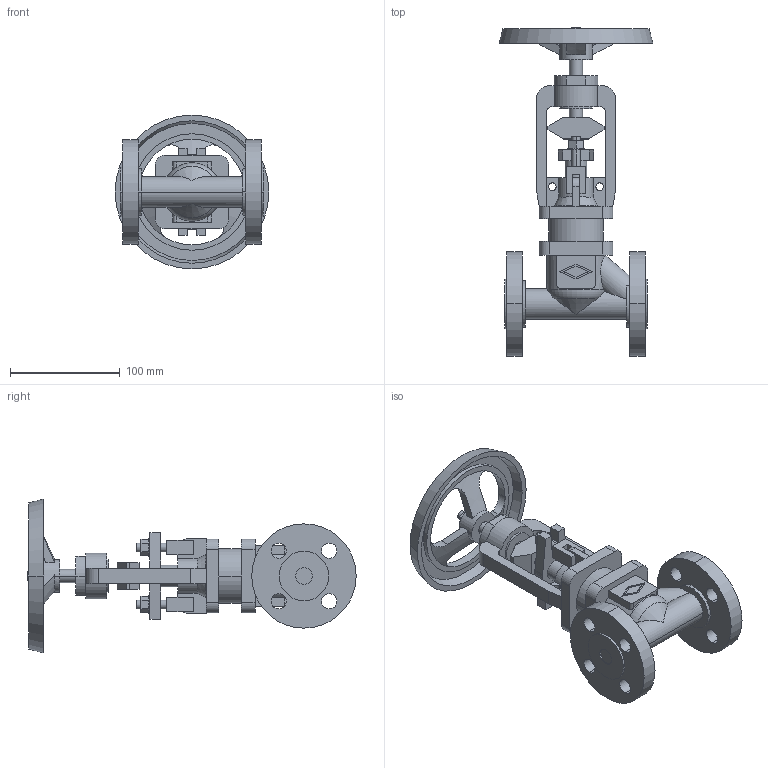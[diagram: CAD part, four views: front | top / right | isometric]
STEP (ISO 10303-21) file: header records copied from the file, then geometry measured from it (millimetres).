
FILE_DESCRIPTION(('OneSpaceDesigner STEP Export'),'2;1');
FILE_NAME('c000004284.stp','2010-05-05T10:28:48',(''),(''),'OneSpace Designer STEP processor for AP214 (Solid Model)','OneSpace Modeling 15.50B 03-Nov-2007 (C) CoCreate Software GmbH','');
FILE_SCHEMA(('AUTOMOTIVE_DESIGN { 1 0 10303 214 1 1 1 1 }'));
Length unit declared in the file: millimetre
Products named in the file (1): 1
Bounding box: 140 x 298.9 x 140 mm (x, y, z)
Volume: 735967.4 mm3; surface area: 148736.1 mm2
Topology: 1 solids, 1 shells, 293 faces, 771 edges, 507 vertices
Faces by surface type: plane 154, cylinder 113, cone 20, torus 6
Entity records: 11330 total; most frequent: CARTESIAN_POINT 2010, ORIENTED_EDGE 1542, DIRECTION 1310, EDGE_CURVE 771, VERTEX_POINT 507, VECTOR 448, LINE 448, AXIS2_PLACEMENT_3D 431
